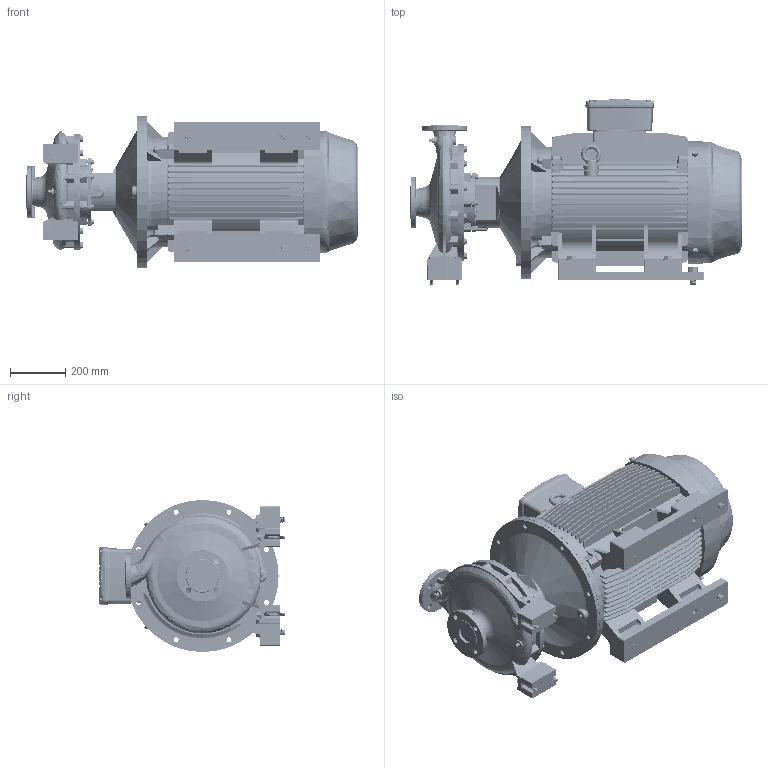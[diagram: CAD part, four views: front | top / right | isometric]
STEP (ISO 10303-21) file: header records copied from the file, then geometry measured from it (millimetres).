
FILE_DESCRIPTION (( 'STEP AP214' ), '1' );
FILE_NAME ('GSD2 50-315_55 & 75_(250SM)_W21.STEP', '2026-07-08T06:56:49', ( '' ), ( '' ), 'SwSTEP 2.0', 'SolidWorks 2024', '' );
FILE_SCHEMA (( 'AUTOMOTIVE_DESIGN' ));
Length unit declared in the file: millimetre
Products named in the file (13): Parametric Flat Washer_M20; A407B Bolt_407; CGS11-5311_2_3_4_5_CGS11-5312; Parametric bolt_SFT-A417B; 50-315-250S_M_ﾃﾞﾌｫﾙﾄ; Parametric Nut_M12; 100x30 - CGSDA-5291; 250S_M2P IE3_W21T_B35; Parametric Flat Washer_M12; GSD2  50-315_55 & 75_(250SM)_W21; Parametric Stud Bolt_SFSK-AB305; CGS11-5311_2_3_4_5_CGS11-5314; Parametric bolt and washer_SFT-A417B
Assembly tree (30 placements, depth 3):
  GSD2  50-315_55 & 75_(250SM)_W21
    50-315-250S_M_ﾃﾞﾌｫﾙﾄ
    250S_M2P IE3_W21T_B35
    CGS11-5311_2_3_4_5_CGS11-5312  x2
    CGS11-5311_2_3_4_5_CGS11-5314  x2
    100x30 - CGSDA-5291  x2
    Parametric Stud Bolt_SFSK-AB305  x4
    Parametric Flat Washer_M12  x4
    Parametric Nut_M12  x4
    A407B Bolt_407  x2
    Parametric Flat Washer_M20  x2
    Parametric bolt and washer_SFT-A417B  x4
      Parametric bolt_SFT-A417B
      Parametric Flat Washer_M20
Bounding box: 1200.5 x 670 x 550 mm (x, y, z)
Volume: 141646080.1 mm3; surface area: 5549068.8 mm2
Topology: 33 solids, 38 shells, 4733 faces, 12619 edges, 8072 vertices
Faces by surface type: cylinder 1839, plane 1738, cone 539, bspline 308, torus 293, sphere 16
Entity records: 174065 total; most frequent: CARTESIAN_POINT 82174, ORIENTED_EDGE 20374, DIRECTION 18042, EDGE_CURVE 10187, AXIS2_PLACEMENT_3D 6627, VERTEX_POINT 6494, LINE 4788, VECTOR 4788
